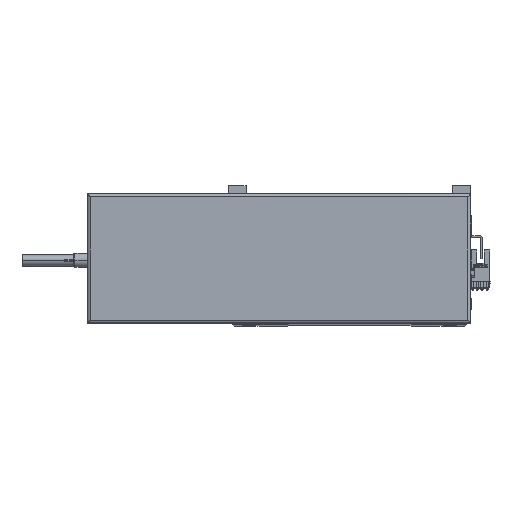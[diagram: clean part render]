
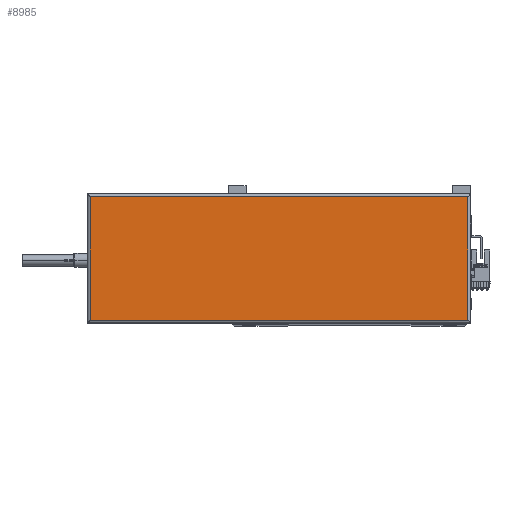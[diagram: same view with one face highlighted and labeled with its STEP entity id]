
A CAD part, top view. The second image highlights one B-rep face of the part: STEP entity #8985.
In plain terms, the highlighted planar face has unit normal (0, 0, 1).
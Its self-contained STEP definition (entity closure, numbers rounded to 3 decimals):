
#2267 = VECTOR ( 'NONE', #3725, 1000. ) ;
#3614 = CARTESIAN_POINT ( 'NONE',  ( 265., 90., 44.8 ) ) ;
#3725 = DIRECTION ( 'NONE',  ( 0., -1., 0. ) ) ;
#4422 = ORIENTED_EDGE ( 'NONE', *, *, #42748, .T. ) ;
#5120 = VECTOR ( 'NONE', #32614, 1000. ) ;
#7106 = CARTESIAN_POINT ( 'NONE',  ( 267., 2., 44.8 ) ) ;
#8985 = ADVANCED_FACE ( 'NONE', ( #13915 ), #13705, .T. ) ;
#11615 = DIRECTION ( 'NONE',  ( 1., 0., 0. ) ) ;
#11924 = LINE ( 'NONE', #44005, #5120 ) ;
#13705 = PLANE ( 'NONE',  #42407 ) ;
#13915 = FACE_OUTER_BOUND ( 'NONE', #23212, .T. ) ;
#14084 = CARTESIAN_POINT ( 'NONE',  ( 2., 2., 44.8 ) ) ;
#15055 = VECTOR ( 'NONE', #23060, 1000. ) ;
#17508 = LINE ( 'NONE', #3614, #15055 ) ;
#17533 = LINE ( 'NONE', #7106, #29232 ) ;
#17542 = VERTEX_POINT ( 'NONE', #20245 ) ;
#20245 = CARTESIAN_POINT ( 'NONE',  ( 265., 2., 44.8 ) ) ;
#23060 = DIRECTION ( 'NONE',  ( 0., 1., 0. ) ) ;
#23212 = EDGE_LOOP ( 'NONE', ( #24243, #44482, #46996, #4422 ) ) ;
#24243 = ORIENTED_EDGE ( 'NONE', *, *, #29068, .T. ) ;
#27105 = CARTESIAN_POINT ( 'NONE',  ( 2., 0., 44.8 ) ) ;
#29068 = EDGE_CURVE ( 'NONE', #17542, #43226, #17508, .T. ) ;
#29232 = VECTOR ( 'NONE', #11615, 1000. ) ;
#29237 = VERTEX_POINT ( 'NONE', #36449 ) ;
#31162 = EDGE_CURVE ( 'NONE', #43226, #29237, #11924, .T. ) ;
#32614 = DIRECTION ( 'NONE',  ( -1., 0., 0. ) ) ;
#32880 = VERTEX_POINT ( 'NONE', #14084 ) ;
#33124 = DIRECTION ( 'NONE',  ( 1., 0., 0. ) ) ;
#36449 = CARTESIAN_POINT ( 'NONE',  ( 2., 88., 44.8 ) ) ;
#36913 = DIRECTION ( 'NONE',  ( 0., 0., 1. ) ) ;
#38596 = LINE ( 'NONE', #27105, #2267 ) ;
#40794 = EDGE_CURVE ( 'NONE', #29237, #32880, #38596, .T. ) ;
#41208 = CARTESIAN_POINT ( 'NONE',  ( 133.5, 45., 44.8 ) ) ;
#42407 = AXIS2_PLACEMENT_3D ( 'NONE', #41208, #36913, #33124 ) ;
#42748 = EDGE_CURVE ( 'NONE', #32880, #17542, #17533, .T. ) ;
#43226 = VERTEX_POINT ( 'NONE', #49950 ) ;
#44005 = CARTESIAN_POINT ( 'NONE',  ( 0., 88., 44.8 ) ) ;
#44482 = ORIENTED_EDGE ( 'NONE', *, *, #31162, .T. ) ;
#46996 = ORIENTED_EDGE ( 'NONE', *, *, #40794, .T. ) ;
#49950 = CARTESIAN_POINT ( 'NONE',  ( 265., 88., 44.8 ) ) ;
